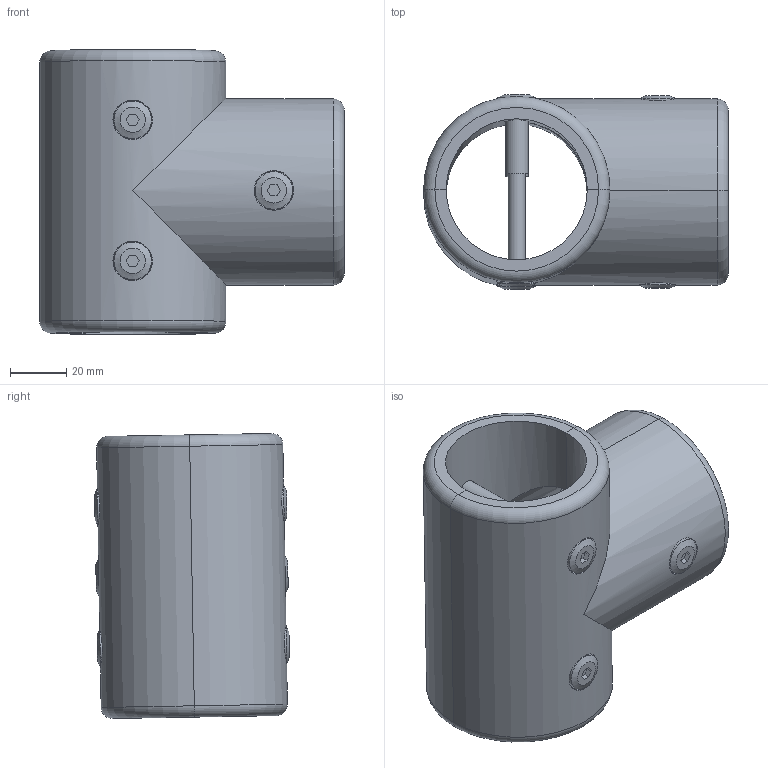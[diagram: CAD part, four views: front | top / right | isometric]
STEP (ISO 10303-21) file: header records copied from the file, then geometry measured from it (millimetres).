
FILE_DESCRIPTION(/* description */ ('FRP HANDRAIL FITTING'),/* implementation_level */ '2;1');
FILE_NAME(/* name */ 'C:\Users\Callum\The Trustee for INKSTONE UNIT TRUST\GRP Australia - Documents\8 Drawings\Handrails\3D Models\Handrail Fittings STEP\MH3-Wcross Connector.stp',/* time_stamp */ '2022-09-15T13:54:07+10:00',/* author */ ('Callum'),/* organization */ (''),/* preprocessor_version */ 'ST-DEVELOPER v18.1',/* originating_system */ 'Autodesk Inventor 2022',/* authorisation */ '');
FILE_SCHEMA (('AUTOMOTIVE_DESIGN { 1 0 10303 214 3 1 1 }'));
Length unit declared in the file: millimetre
Products named in the file (5): MH3-Wcross Connector; MH3-Wcross connector 1; MHR M6 BARREL NUT & SET SCREW; M6x8 Barrel Nut; M6x50 Soc Head Screw
Assembly tree (7 placements, depth 3):
  MH3-Wcross Connector
    MH3-Wcross connector 1  x2
    MHR M6 BARREL NUT & SET SCREW  x3
      M6x8 Barrel Nut
      M6x50 Soc Head Screw
Bounding box: 108 x 69.02 x 101 mm (x, y, z)
Volume: 204240.7 mm3; surface area: 65625.3 mm2
Topology: 8 solids, 8 shells, 128 faces, 290 edges, 199 vertices
Faces by surface type: plane 81, cylinder 29, torus 6, cone 6, bspline 6
Full cylindrical faces by diameter (mm): 5 x3, 6 x3, 8 x3, 8.5 x6, 14 x6
Entity records: 1894 total; most frequent: CARTESIAN_POINT 519, DIRECTION 263, ORIENTED_EDGE 234, EDGE_CURVE 117, AXIS2_PLACEMENT_3D 100, VERTEX_POINT 81, EDGE_LOOP 64, LINE 63
